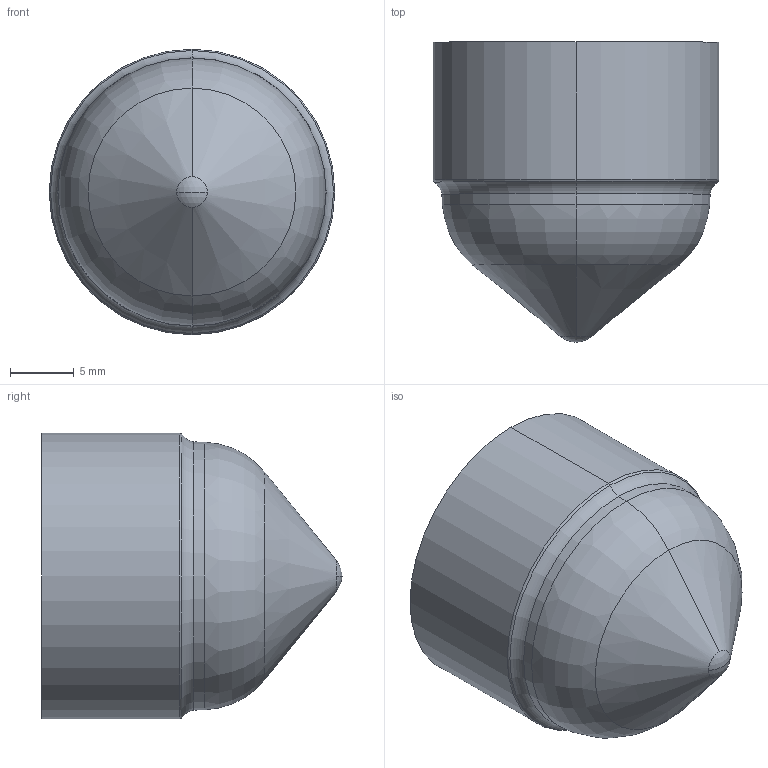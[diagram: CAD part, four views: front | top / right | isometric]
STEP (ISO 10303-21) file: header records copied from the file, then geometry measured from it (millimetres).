
FILE_DESCRIPTION (( 'STEP AP214' ), '1' );
FILE_NAME ('NORDSONEFD-7012320 PISTON O 30-55CC OR FLAT.STEP', '2019-01-02T13:19:17', ( '' ), ( '' ), 'SwSTEP 2.0', 'SolidWorks 2018', '' );
FILE_SCHEMA (( 'AUTOMOTIVE_DESIGN' ));
Length unit declared in the file: inch
Products named in the file (1): NORDSONEFD-7012320 PISTON O 30-55CC OR FLAT
Bounding box: 22.43 x 23.56 x 22.43 mm (x, y, z)
Volume: 1176.9 mm3; surface area: 2903 mm2
Topology: 1 solids, 1 shells, 184 faces, 478 edges, 309 vertices
Faces by surface type: bspline 66, plane 59, cylinder 29, torus 20, cone 8, sphere 2
Entity records: 9100 total; most frequent: CARTESIAN_POINT 5020, ORIENTED_EDGE 956, DIRECTION 642, EDGE_CURVE 478, VERTEX_POINT 309, AXIS2_PLACEMENT_3D 231, EDGE_LOOP 197, B_SPLINE_CURVE_WITH_KNOTS 186
